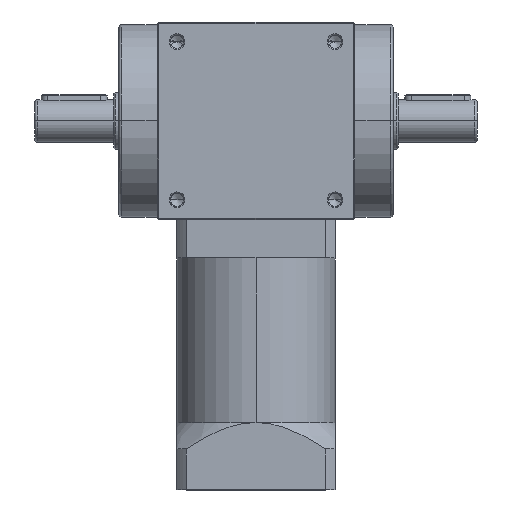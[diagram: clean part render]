
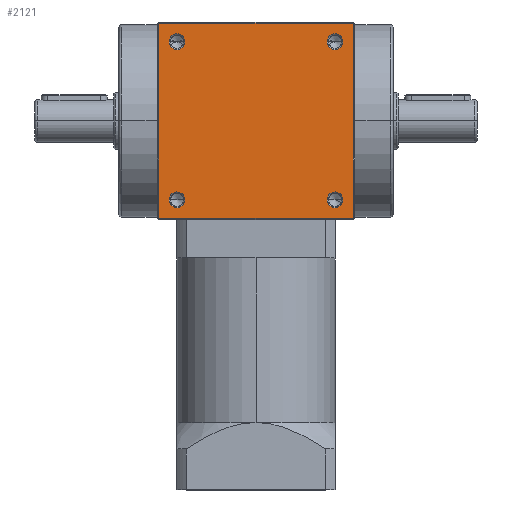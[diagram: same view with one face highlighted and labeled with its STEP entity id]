
A CAD part, top view. The second image highlights one B-rep face of the part: STEP entity #2121.
In plain terms, the highlighted planar face has unit normal (0, 0, 1).
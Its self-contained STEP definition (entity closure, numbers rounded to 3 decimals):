
#39 = CARTESIAN_POINT ( 'NONE',  ( 30., 30., 37.5 ) ) ;
#92 = DIRECTION ( 'NONE',  ( 0., 0., -1. ) ) ;
#141 = EDGE_LOOP ( 'NONE', ( #779, #7880 ) ) ;
#223 = FACE_BOUND ( 'NONE', #141, .T. ) ;
#309 = ORIENTED_EDGE ( 'NONE', *, *, #3015, .T. ) ;
#382 = CIRCLE ( 'NONE', #1763, 3. ) ;
#408 = DIRECTION ( 'NONE',  ( 0., 0., -1. ) ) ;
#750 = EDGE_CURVE ( 'NONE', #7140, #5473, #5286, .T. ) ;
#779 = ORIENTED_EDGE ( 'NONE', *, *, #1750, .T. ) ;
#821 = DIRECTION ( 'NONE',  ( 0., 0., -1. ) ) ;
#835 = CARTESIAN_POINT ( 'NONE',  ( -27., -30., 37.5 ) ) ;
#840 = DIRECTION ( 'NONE',  ( -1., 0., 0. ) ) ;
#872 = DIRECTION ( 'NONE',  ( 0., -1., 0. ) ) ;
#896 = ORIENTED_EDGE ( 'NONE', *, *, #4256, .T. ) ;
#1031 = ORIENTED_EDGE ( 'NONE', *, *, #7211, .T. ) ;
#1400 = CIRCLE ( 'NONE', #8766, 3. ) ;
#1441 = EDGE_CURVE ( 'NONE', #6259, #8881, #3100, .T. ) ;
#1453 = CARTESIAN_POINT ( 'NONE',  ( -30., -30., 37.5 ) ) ;
#1526 = CARTESIAN_POINT ( 'NONE',  ( -37., 0., 37.5 ) ) ;
#1559 = AXIS2_PLACEMENT_3D ( 'NONE', #7139, #7883, #7688 ) ;
#1593 = VERTEX_POINT ( 'NONE', #7119 ) ;
#1750 = EDGE_CURVE ( 'NONE', #8303, #1593, #4633, .T. ) ;
#1763 = AXIS2_PLACEMENT_3D ( 'NONE', #39, #9170, #8416 ) ;
#2021 = EDGE_CURVE ( 'NONE', #1593, #8303, #1400, .T. ) ;
#2042 = CARTESIAN_POINT ( 'NONE',  ( 37., -37., 37.5 ) ) ;
#2121 = ADVANCED_FACE ( 'NONE', ( #7979, #8558, #6311, #223, #6434 ), #8863, .F. ) ;
#2124 = CARTESIAN_POINT ( 'NONE',  ( 0., -37., 37.5 ) ) ;
#2174 = CARTESIAN_POINT ( 'NONE',  ( -33., -30., 37.5 ) ) ;
#2258 = VECTOR ( 'NONE', #7442, 1000. ) ;
#2408 = VECTOR ( 'NONE', #3164, 1000. ) ;
#2504 = LINE ( 'NONE', #2124, #2258 ) ;
#2781 = ORIENTED_EDGE ( 'NONE', *, *, #1441, .T. ) ;
#2890 = VERTEX_POINT ( 'NONE', #2174 ) ;
#3015 = EDGE_CURVE ( 'NONE', #3509, #5428, #3168, .T. ) ;
#3020 = CIRCLE ( 'NONE', #1559, 3. ) ;
#3100 = CIRCLE ( 'NONE', #8201, 3. ) ;
#3128 = VECTOR ( 'NONE', #872, 1000. ) ;
#3140 = DIRECTION ( 'NONE',  ( -1., 0., 0. ) ) ;
#3164 = DIRECTION ( 'NONE',  ( 0., 1., 0. ) ) ;
#3168 = LINE ( 'NONE', #6071, #3758 ) ;
#3284 = VERTEX_POINT ( 'NONE', #4255 ) ;
#3366 = LINE ( 'NONE', #7649, #2408 ) ;
#3509 = VERTEX_POINT ( 'NONE', #6000 ) ;
#3600 = EDGE_CURVE ( 'NONE', #5473, #7140, #382, .T. ) ;
#3722 = DIRECTION ( 'NONE',  ( -1., 0., 0. ) ) ;
#3758 = VECTOR ( 'NONE', #3835, 1000. ) ;
#3835 = DIRECTION ( 'NONE',  ( -1., 0., 0. ) ) ;
#3864 = EDGE_CURVE ( 'NONE', #5391, #2890, #3020, .T. ) ;
#4090 = CARTESIAN_POINT ( 'NONE',  ( -30., 30., 37.5 ) ) ;
#4163 = CARTESIAN_POINT ( 'NONE',  ( -27., 30., 37.5 ) ) ;
#4244 = EDGE_CURVE ( 'NONE', #9254, #3509, #3366, .T. ) ;
#4249 = CARTESIAN_POINT ( 'NONE',  ( 0., 0., 37.5 ) ) ;
#4255 = CARTESIAN_POINT ( 'NONE',  ( -37., -37., 37.5 ) ) ;
#4256 = EDGE_CURVE ( 'NONE', #5428, #3284, #6137, .T. ) ;
#4633 = CIRCLE ( 'NONE', #7437, 3. ) ;
#4890 = DIRECTION ( 'NONE',  ( -1., 0., 0. ) ) ;
#4955 = CIRCLE ( 'NONE', #4994, 3. ) ;
#4994 = AXIS2_PLACEMENT_3D ( 'NONE', #1453, #6893, #9126 ) ;
#5005 = EDGE_LOOP ( 'NONE', ( #5092, #9328 ) ) ;
#5092 = ORIENTED_EDGE ( 'NONE', *, *, #3864, .T. ) ;
#5236 = DIRECTION ( 'NONE',  ( 0., 0., -1. ) ) ;
#5270 = EDGE_CURVE ( 'NONE', #3284, #9254, #2504, .T. ) ;
#5286 = CIRCLE ( 'NONE', #9801, 3. ) ;
#5312 = DIRECTION ( 'NONE',  ( 0., 0., -1. ) ) ;
#5327 = CARTESIAN_POINT ( 'NONE',  ( 30., 30., 37.5 ) ) ;
#5347 = CARTESIAN_POINT ( 'NONE',  ( 30., -30., 37.5 ) ) ;
#5391 = VERTEX_POINT ( 'NONE', #835 ) ;
#5428 = VERTEX_POINT ( 'NONE', #7768 ) ;
#5473 = VERTEX_POINT ( 'NONE', #5508 ) ;
#5508 = CARTESIAN_POINT ( 'NONE',  ( 33., 30., 37.5 ) ) ;
#5514 = AXIS2_PLACEMENT_3D ( 'NONE', #5347, #5312, #3722 ) ;
#5909 = EDGE_LOOP ( 'NONE', ( #1031, #2781 ) ) ;
#6000 = CARTESIAN_POINT ( 'NONE',  ( 37., 37., 37.5 ) ) ;
#6012 = DIRECTION ( 'NONE',  ( -1., 0., 0. ) ) ;
#6071 = CARTESIAN_POINT ( 'NONE',  ( 0., 37., 37.5 ) ) ;
#6137 = LINE ( 'NONE', #1526, #3128 ) ;
#6207 = ORIENTED_EDGE ( 'NONE', *, *, #5270, .T. ) ;
#6259 = VERTEX_POINT ( 'NONE', #6356 ) ;
#6311 = FACE_BOUND ( 'NONE', #7484, .T. ) ;
#6356 = CARTESIAN_POINT ( 'NONE',  ( 27., -30., 37.5 ) ) ;
#6434 = FACE_OUTER_BOUND ( 'NONE', #6469, .T. ) ;
#6469 = EDGE_LOOP ( 'NONE', ( #896, #6207, #7398, #309 ) ) ;
#6495 = DIRECTION ( 'NONE',  ( 0., 0., -1. ) ) ;
#6893 = DIRECTION ( 'NONE',  ( 0., 0., -1. ) ) ;
#7077 = AXIS2_PLACEMENT_3D ( 'NONE', #4249, #408, #7253 ) ;
#7119 = CARTESIAN_POINT ( 'NONE',  ( -33., 30., 37.5 ) ) ;
#7139 = CARTESIAN_POINT ( 'NONE',  ( -30., -30., 37.5 ) ) ;
#7140 = VERTEX_POINT ( 'NONE', #7508 ) ;
#7175 = EDGE_CURVE ( 'NONE', #2890, #5391, #4955, .T. ) ;
#7211 = EDGE_CURVE ( 'NONE', #8881, #6259, #9576, .T. ) ;
#7253 = DIRECTION ( 'NONE',  ( -1., 0., 0. ) ) ;
#7398 = ORIENTED_EDGE ( 'NONE', *, *, #4244, .T. ) ;
#7432 = ORIENTED_EDGE ( 'NONE', *, *, #3600, .T. ) ;
#7437 = AXIS2_PLACEMENT_3D ( 'NONE', #8722, #6495, #4890 ) ;
#7442 = DIRECTION ( 'NONE',  ( 1., 0., 0. ) ) ;
#7484 = EDGE_LOOP ( 'NONE', ( #7432, #7689 ) ) ;
#7508 = CARTESIAN_POINT ( 'NONE',  ( 27., 30., 37.5 ) ) ;
#7649 = CARTESIAN_POINT ( 'NONE',  ( 37., 0., 37.5 ) ) ;
#7688 = DIRECTION ( 'NONE',  ( -1., 0., 0. ) ) ;
#7689 = ORIENTED_EDGE ( 'NONE', *, *, #750, .T. ) ;
#7768 = CARTESIAN_POINT ( 'NONE',  ( -37., 37., 37.5 ) ) ;
#7880 = ORIENTED_EDGE ( 'NONE', *, *, #2021, .T. ) ;
#7883 = DIRECTION ( 'NONE',  ( 0., 0., -1. ) ) ;
#7979 = FACE_BOUND ( 'NONE', #5909, .T. ) ;
#8063 = CARTESIAN_POINT ( 'NONE',  ( 33., -30., 37.5 ) ) ;
#8201 = AXIS2_PLACEMENT_3D ( 'NONE', #9754, #5236, #6012 ) ;
#8303 = VERTEX_POINT ( 'NONE', #4163 ) ;
#8416 = DIRECTION ( 'NONE',  ( -1., 0., 0. ) ) ;
#8558 = FACE_BOUND ( 'NONE', #5005, .T. ) ;
#8722 = CARTESIAN_POINT ( 'NONE',  ( -30., 30., 37.5 ) ) ;
#8766 = AXIS2_PLACEMENT_3D ( 'NONE', #4090, #92, #840 ) ;
#8863 = PLANE ( 'NONE',  #7077 ) ;
#8881 = VERTEX_POINT ( 'NONE', #8063 ) ;
#9126 = DIRECTION ( 'NONE',  ( -1., 0., 0. ) ) ;
#9170 = DIRECTION ( 'NONE',  ( 0., 0., -1. ) ) ;
#9254 = VERTEX_POINT ( 'NONE', #2042 ) ;
#9328 = ORIENTED_EDGE ( 'NONE', *, *, #7175, .T. ) ;
#9576 = CIRCLE ( 'NONE', #5514, 3. ) ;
#9754 = CARTESIAN_POINT ( 'NONE',  ( 30., -30., 37.5 ) ) ;
#9801 = AXIS2_PLACEMENT_3D ( 'NONE', #5327, #821, #3140 ) ;
